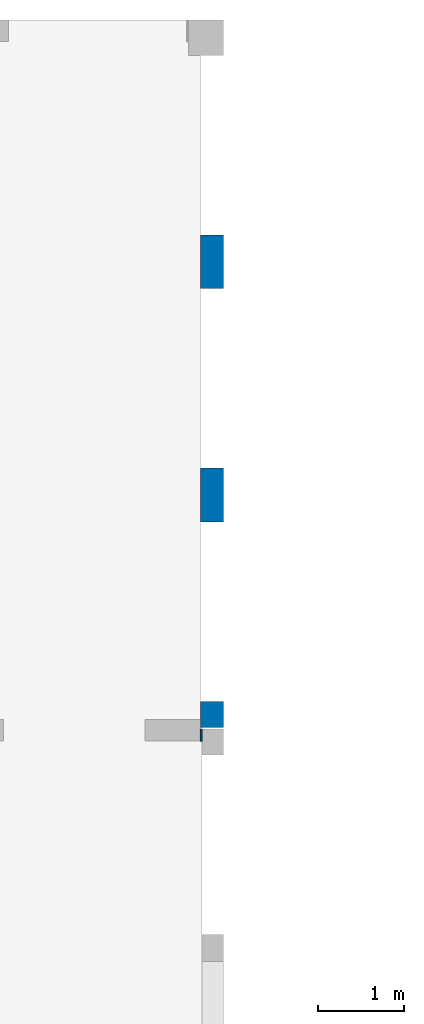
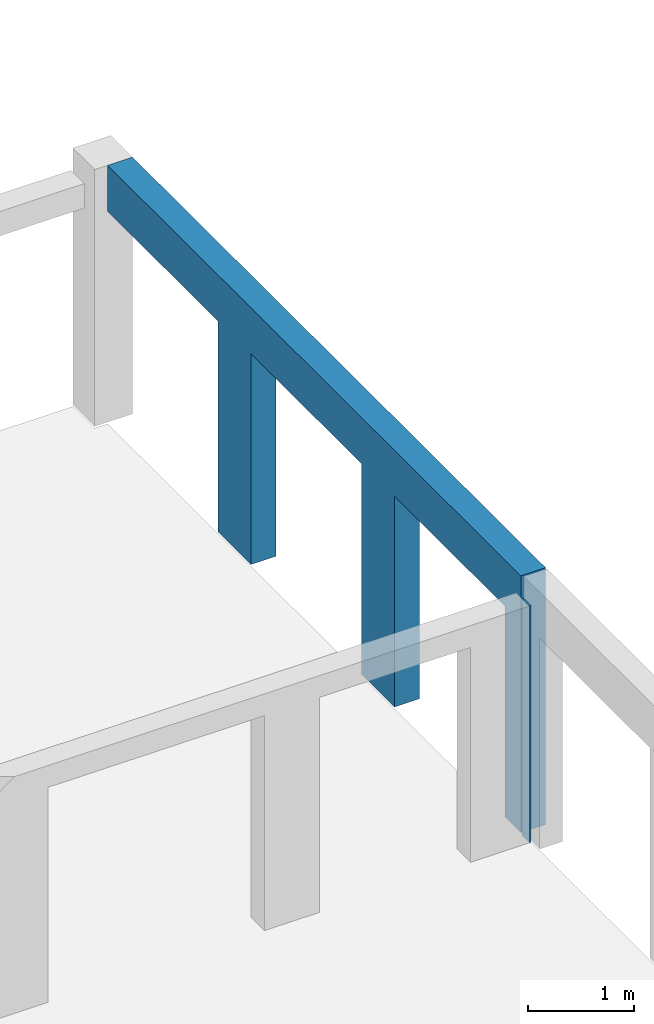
# One storey, part 5 of 13: 2 walls, 3 openings.
"""IFC2X3 building model written with IfcOpenShell, lengths in millimetres."""

from ifc_helpers import new_model, entity, si_unit, converted_unit, derived_unit, direction, frame, frame_2d, origin, place, context, subcontext, project, spatial, polyline, rectangle, extrude, clip, bounded_halfspace, material, layer, layer_set, layer_usage, type_object, element, save


model = new_model("IFC2X3")

# Units and contexts
model_context = context("Model", 3, precision=0.01, world=origin(), true_north=direction((6.12303176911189e-17, 1.0)))
body_context = subcontext(model_context, "Body", "Model", "MODEL_VIEW")
ifc_project = project(units=[si_unit("LENGTHUNIT", "METRE", prefix="MILLI"), si_unit("AREAUNIT", "SQUARE_METRE"), si_unit("VOLUMEUNIT", "CUBIC_METRE"), converted_unit("PLANEANGLEUNIT", "DEGREE", entity("IfcRatioMeasure", 0.0174532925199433), si_unit("PLANEANGLEUNIT", "RADIAN"), dimensions=[0, 0, 0, 0, 0, 0, 0]), si_unit("MASSUNIT", "GRAM", prefix="KILO"), derived_unit("MASSDENSITYUNIT", [(si_unit("MASSUNIT", "GRAM", prefix="KILO"), 1), (si_unit("LENGTHUNIT", "METRE"), -3)]), si_unit("TIMEUNIT", "SECOND"), si_unit("FREQUENCYUNIT", "HERTZ"), si_unit("THERMODYNAMICTEMPERATUREUNIT", "DEGREE_CELSIUS"), derived_unit("THERMALTRANSMITTANCEUNIT", [(si_unit("MASSUNIT", "GRAM", prefix="KILO"), 1), (si_unit("THERMODYNAMICTEMPERATUREUNIT", "KELVIN"), -1), (si_unit("TIMEUNIT", "SECOND"), -3)]), derived_unit("VOLUMETRICFLOWRATEUNIT", [(si_unit("LENGTHUNIT", "METRE"), 3), (si_unit("TIMEUNIT", "SECOND"), -1)]), si_unit("ELECTRICCURRENTUNIT", "AMPERE"), si_unit("ELECTRICVOLTAGEUNIT", "VOLT"), si_unit("POWERUNIT", "WATT"), si_unit("FORCEUNIT", "NEWTON", prefix="KILO"), si_unit("ILLUMINANCEUNIT", "LUX"), si_unit("LUMINOUSFLUXUNIT", "LUMEN"), si_unit("LUMINOUSINTENSITYUNIT", "CANDELA"), derived_unit("USERDEFINED", [(si_unit("MASSUNIT", "GRAM", prefix="KILO"), -1), (si_unit("LENGTHUNIT", "METRE"), -2), (si_unit("TIMEUNIT", "SECOND"), 3), (si_unit("LUMINOUSFLUXUNIT", "LUMEN"), 1)]), derived_unit("LINEARVELOCITYUNIT", [(si_unit("LENGTHUNIT", "METRE"), 1), (si_unit("TIMEUNIT", "SECOND"), -1)]), si_unit("PRESSUREUNIT", "PASCAL"), derived_unit("USERDEFINED", [(si_unit("LENGTHUNIT", "METRE"), -2), (si_unit("MASSUNIT", "GRAM", prefix="KILO"), 1), (si_unit("TIMEUNIT", "SECOND"), -2)])], contexts=[model_context])

# Site, building, storey
site_placement = place(None, origin())
site = spatial("IfcSite", under=ifc_project, at=site_placement, Name="Default", CompositionType="ELEMENT")
building_placement = place(site_placement, origin())
building = spatial("IfcBuilding", under=site, at=building_placement, Name="niet gebruiken", CompositionType="ELEMENT")
storey_placement = place(building_placement, frame((0.0, 0.0, 60120.0)))
storey = spatial("IfcBuildingStorey", under=building, at=storey_placement, Name="20 twintigste verdieping", CompositionType="ELEMENT", Elevation=60120.0)

# Wall, openings
ifc_material_1 = material(Name="NLRS_f2_beton prefab")
ifc_layer_1 = layer(ifc_material_1, 270.0)
ifc_layer_set_1 = layer_set([ifc_layer_1], Name="Basic Wall:NLRS_21.21_WA_beton prefab d=270_gen")
ifc_layer_usage_1 = layer_usage(ifc_layer_set_1, "AXIS2", "NEGATIVE", 135.0)
wall_type_1 = type_object("IfcWallType", Name="Basic Wall:NLRS_21.21_WA_beton prefab d=270_gen", PredefinedType="STANDARD", material=ifc_layer_set_1)
wall_1_placement = place(storey_placement, frame((56665.0, 52846.0, -70.0), z_axis=(0.0, 0.0, 1.0), x_axis=(0.0, -1.0, 0.0)))
wall_1 = element("IfcWallStandardCase", 1, at=wall_1_placement, inside=storey, type_object=wall_type_1, material=ifc_layer_usage_1, Name="Basic Wall:NLRS_21.21_WA_beton prefab d=270_gen", ObjectType="Basic Wall:NLRS_21.21_WA_beton prefab d=270_gen", context=body_context, shape_type="SweptSolid", body=[
    extrude(rectangle(XDim=7780.00000000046, YDim=270.000000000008, at=frame_2d((3890.00000000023, 0.0), x_axis=(-1.0, 0.0))), origin(), (0.0, 0.0, 1.0), 2950.00000000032),
])
opening_1_placement = place(wall_1_placement, origin())
element("IfcOpeningElement", 2, at=opening_1_placement, cuts=wall_1, Name="Basic Wall:NLRS_21.21_WA_beton prefab d=270_gen", ObjectType="Opening", context=body_context, shape_type="SweptSolid", body=[
    extrude(rectangle(XDim=2420.0, YDim=2080.0, at=frame_2d((8.64019966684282e-12, 0.0), x_axis=(0.0, 1.0))), frame((1040.0, -1389.0, 1210.0), z_axis=(0.0, 1.0, 0.0), x_axis=(-1.0, 0.0, 0.0)), (0.0, 0.0, 1.0), 3048.0),
])
opening_2_placement = place(wall_1_placement, origin())
element("IfcOpeningElement", 3, at=opening_2_placement, cuts=wall_1, Name="Basic Wall:NLRS_21.21_WA_beton prefab d=270_gen", ObjectType="Opening", context=body_context, shape_type="SweptSolid", body=[
    extrude(rectangle(XDim=2420.0, YDim=2080.0, at=frame_2d((0.0, 0.0), x_axis=(0.0, 1.0))), frame((3740.0, -1389.0, 1210.0), z_axis=(0.0, 1.0, 0.0), x_axis=(-1.0, 0.0, 0.0)), (0.0, 0.0, 1.0), 3048.0),
])
opening_3_placement = place(wall_1_placement, origin())
element("IfcOpeningElement", 4, at=opening_3_placement, cuts=wall_1, Name="Basic Wall:NLRS_21.21_WA_beton prefab d=270_gen", ObjectType="Opening", context=body_context, shape_type="SweptSolid", body=[
    extrude(rectangle(XDim=2420.0, YDim=2080.0, at=frame_2d((0.0, 0.0), x_axis=(0.0, 1.0))), frame((6440.0, -1389.0, 1210.0), z_axis=(0.0, 1.0, 0.0), x_axis=(-1.0, 0.0, 0.0)), (0.0, 0.0, 1.0), 3048.0),
])

# Wall
ifc_material_2 = material(Name="NLRS_f2_beton ihwg")
ifc_layer_2 = layer(ifc_material_2, 140.0)
ifc_layer_set_2 = layer_set([ifc_layer_2], Name="Basic Wall:NLRS_22.21_WA_beton ihwg d=140_gen")
ifc_layer_usage_2 = layer_usage(ifc_layer_set_2, "AXIS2", "NEGATIVE", 70.0)
wall_type_2 = type_object("IfcWallType", Name="Basic Wall:NLRS_22.21_WA_beton ihwg d=140_gen", PredefinedType="STANDARD", material=ifc_layer_set_2)
wall_2_placement = place(storey_placement, frame((56530.0, 44976.0, -90.0)))
element("IfcWallStandardCase", 5, at=wall_2_placement, inside=storey, type_object=wall_type_2, material=ifc_layer_usage_2, Name="Basic Wall:NLRS_22.21_WA_beton ihwg d=140_gen", ObjectType="Basic Wall:NLRS_22.21_WA_beton ihwg d=140_gen", context=body_context, shape_type="Clipping", body=[
    clip(extrude(rectangle(XDim=19.9999999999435, YDim=140.000000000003, at=frame_2d((9.99999999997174, 0.0), x_axis=(-1.0, 0.0))), origin(), (0.0, 0.0, 1.0), 2719.99999999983), bounded_halfspace(frame((0.0, -70.0, 0.0), z_axis=(1.0, 0.0, 0.0), x_axis=(0.0, 1.0, 0.0)), True, frame((0.0, -70.0, 0.0), z_axis=(1.0, 0.0, 0.0), x_axis=(0.0, 1.0, 0.0)), polyline([(0.0, 0.0), (140.0, 0.0), (140.0, 2720.0), (0.0, 2720.0), (0.0, 0.0)]))),
])

save(model, "model.ifc")
